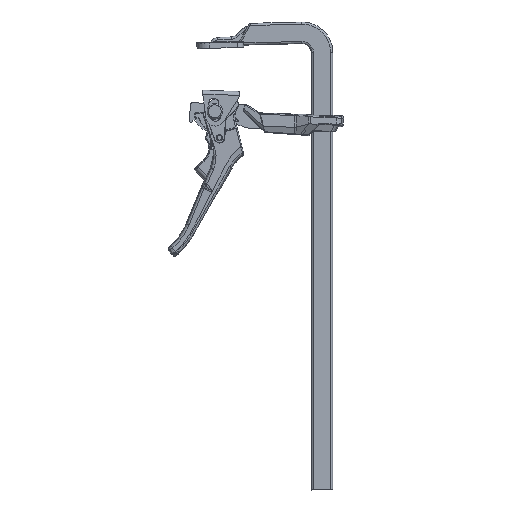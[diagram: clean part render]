
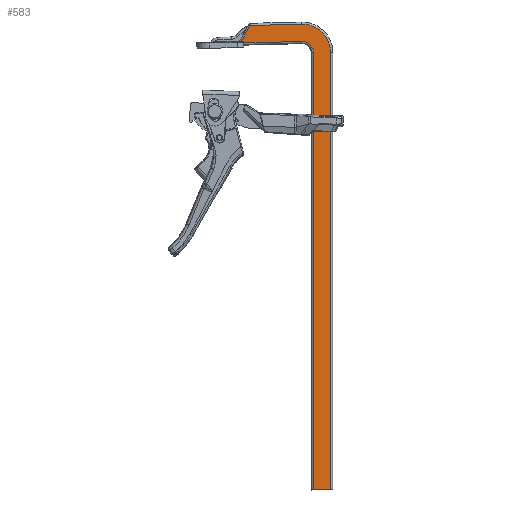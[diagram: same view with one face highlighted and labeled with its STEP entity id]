
A CAD part, front view. The second image highlights one B-rep face of the part: STEP entity #583.
In plain terms, the highlighted free-form (B-spline) face has degree [1, 1] with [2, 2] control points.
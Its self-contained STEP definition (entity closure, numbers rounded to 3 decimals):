
#95=CARTESIAN_POINT('',(25.085,-5.375,-563.));
#96=VERTEX_POINT('',#95);
#103=CARTESIAN_POINT('',(2.815,-5.375,-563.));
#104=VERTEX_POINT('',#103);
#105=CARTESIAN_POINT('',(25.085,-5.375,-563.));
#106=CARTESIAN_POINT('',(23.179,-5.375,-563.));
#107=CARTESIAN_POINT('',(13.95,-5.375,-563.));
#108=CARTESIAN_POINT('',(4.721,-5.375,-563.));
#109=CARTESIAN_POINT('',(2.815,-5.375,-563.));
#110=B_SPLINE_CURVE_WITH_KNOTS('',1,(#105,#106,#107,#108,#109),.UNSPECIFIED.,.F.,.U.,(2,1,1,1,2),(0.,0.206,1.206,2.206,2.413),.UNSPECIFIED.);
#111=EDGE_CURVE('',#96,#104,#110,.T.);
#405=CARTESIAN_POINT('',(2.815,-5.375,0.));
#406=VERTEX_POINT('',#405);
#422=CARTESIAN_POINT('',(2.815,-5.375,0.));
#423=CARTESIAN_POINT('',(2.815,-5.375,-563.));
#424=B_SPLINE_CURVE_WITH_KNOTS('',1,(#422,#423),.POLYLINE_FORM.,.F.,.U.,(2,2),(0.,1.),.UNSPECIFIED.);
#425=EDGE_CURVE('',#406,#104,#424,.T.);
#482=CARTESIAN_POINT('',(25.085,-5.375,0.));
#483=VERTEX_POINT('',#482);
#494=CARTESIAN_POINT('',(25.085,-5.375,0.));
#495=CARTESIAN_POINT('',(25.085,-5.375,-563.));
#496=B_SPLINE_CURVE_WITH_KNOTS('',1,(#494,#495),.POLYLINE_FORM.,.F.,.U.,(2,2),(0.,1.),.UNSPECIFIED.);
#497=EDGE_CURVE('',#483,#96,#496,.T.);
#502=CARTESIAN_POINT('',(306.537,-5.375,97.65));
#503=CARTESIAN_POINT('',(306.537,-5.375,-623.168));
#504=CARTESIAN_POINT('',(-414.281,-5.375,97.65));
#505=CARTESIAN_POINT('',(-414.281,-5.375,-623.168));
#506=B_SPLINE_SURFACE_WITH_KNOTS('',1,1,((#502,#503),(#504,#505)),.PLANE_SURF.,.F.,.F.,.U.,(2,2),(2,2),(0.,1.),(0.,1.),.UNSPECIFIED.);
#507=CARTESIAN_POINT('',(-86.898,-5.375,14.141));
#508=VERTEX_POINT('',#507);
#509=CARTESIAN_POINT('',(-87.924,-5.375,15.114));
#510=VERTEX_POINT('',#509);
#511=CARTESIAN_POINT('',(-86.898,-5.375,14.141));
#512=CARTESIAN_POINT('',(-86.904,-5.375,14.391));
#513=CARTESIAN_POINT('',(-87.674,-5.375,15.121));
#514=CARTESIAN_POINT('',(-87.924,-5.375,15.114));
#515=B_SPLINE_CURVE_WITH_KNOTS('',2,(#511,#512,#513,#514),.UNSPECIFIED.,.F.,.U.,(3,1,3),(0.,0.5,1.),.UNSPECIFIED.);
#516=EDGE_CURVE('',#508,#510,#515,.T.);
#517=ORIENTED_EDGE('',*,*,#516,.F.);
#518=CARTESIAN_POINT('',(-86.864,-5.375,12.86));
#519=VERTEX_POINT('',#518);
#520=CARTESIAN_POINT('',(-86.864,-5.375,12.86));
#521=CARTESIAN_POINT('',(-86.898,-5.375,14.141));
#522=B_SPLINE_CURVE_WITH_KNOTS('',1,(#520,#521),.POLYLINE_FORM.,.F.,.U.,(2,2),(0.,0.051),.UNSPECIFIED.);
#523=EDGE_CURVE('',#519,#508,#522,.T.);
#524=ORIENTED_EDGE('',*,*,#523,.F.);
#525=CARTESIAN_POINT('',(-12.388,-5.375,14.81));
#526=VERTEX_POINT('',#525);
#527=CARTESIAN_POINT('',(-12.388,-5.375,14.81));
#528=CARTESIAN_POINT('',(-86.864,-5.375,12.86));
#529=B_SPLINE_CURVE_WITH_KNOTS('',1,(#527,#528),.POLYLINE_FORM.,.F.,.U.,(2,2),(0.,0.621),.UNSPECIFIED.);
#530=EDGE_CURVE('',#526,#519,#529,.T.);
#531=ORIENTED_EDGE('',*,*,#530,.F.);
#532=CARTESIAN_POINT('',(-12.388,-5.375,14.81));
#533=CARTESIAN_POINT('',(-6.139,-5.375,14.974));
#534=CARTESIAN_POINT('',(-1.662,-5.375,10.612));
#535=CARTESIAN_POINT('',(2.815,-5.375,6.251));
#536=CARTESIAN_POINT('',(2.815,-5.375,0.));
#537=(BOUNDED_CURVE()B_SPLINE_CURVE(2,(#532,#533,#534,#535,#536),.CIRCULAR_ARC.,.F.,.U.)B_SPLINE_CURVE_WITH_KNOTS((3,2,3),(0.,0.5,1.),.UNSPECIFIED.)CURVE()GEOMETRIC_REPRESENTATION_ITEM()RATIONAL_B_SPLINE_CURVE((1.,0.921,1.,0.921,1.))REPRESENTATION_ITEM(''));
#538=EDGE_CURVE('',#526,#406,#537,.T.);
#539=ORIENTED_EDGE('',*,*,#538,.T.);
#540=ORIENTED_EDGE('',*,*,#425,.T.);
#541=ORIENTED_EDGE('',*,*,#111,.F.);
#542=ORIENTED_EDGE('',*,*,#497,.F.);
#543=CARTESIAN_POINT('',(-12.971,-5.375,37.072));
#544=VERTEX_POINT('',#543);
#545=CARTESIAN_POINT('',(-12.971,-5.375,37.072));
#546=CARTESIAN_POINT('',(2.67,-5.375,37.482));
#547=CARTESIAN_POINT('',(13.877,-5.375,26.564));
#548=CARTESIAN_POINT('',(25.085,-5.375,15.646));
#549=CARTESIAN_POINT('',(25.085,-5.375,0.));
#550=(BOUNDED_CURVE()B_SPLINE_CURVE(2,(#545,#546,#547,#548,#549),.UNSPECIFIED.,.F.,.U.)B_SPLINE_CURVE_WITH_KNOTS((3,2,3),(0.,0.5,1.),.UNSPECIFIED.)CURVE()GEOMETRIC_REPRESENTATION_ITEM()RATIONAL_B_SPLINE_CURVE((1.,0.921,1.,0.921,1.))REPRESENTATION_ITEM(''));
#551=EDGE_CURVE('',#544,#483,#550,.T.);
#552=ORIENTED_EDGE('',*,*,#551,.F.);
#553=CARTESIAN_POINT('',(-79.053,-5.375,35.342));
#554=VERTEX_POINT('',#553);
#555=CARTESIAN_POINT('',(-12.971,-5.375,37.072));
#556=CARTESIAN_POINT('',(-79.053,-5.375,35.342));
#557=B_SPLINE_CURVE_WITH_KNOTS('',1,(#555,#556),.POLYLINE_FORM.,.F.,.U.,(2,2),(0.,0.551),.UNSPECIFIED.);
#558=EDGE_CURVE('',#544,#554,#557,.T.);
#559=ORIENTED_EDGE('',*,*,#558,.T.);
#560=CARTESIAN_POINT('',(-90.058,-5.375,15.059));
#561=VERTEX_POINT('',#560);
#562=CARTESIAN_POINT('',(-90.058,-5.375,15.059));
#563=CARTESIAN_POINT('',(-89.525,-5.375,16.041));
#564=CARTESIAN_POINT('',(-87.378,-5.375,19.995));
#565=CARTESIAN_POINT('',(-84.606,-5.375,25.099));
#566=CARTESIAN_POINT('',(-82.676,-5.375,28.654));
#567=CARTESIAN_POINT('',(-81.39,-5.375,31.023));
#568=CARTESIAN_POINT('',(-80.532,-5.375,32.603));
#569=CARTESIAN_POINT('',(-79.96,-5.375,33.656));
#570=CARTESIAN_POINT('',(-79.578,-5.375,34.36));
#571=CARTESIAN_POINT('',(-79.235,-5.375,34.99));
#572=CARTESIAN_POINT('',(-79.053,-5.375,35.342));
#573=B_SPLINE_CURVE_WITH_KNOTS('',2,(#562,#563,#564,#565,#566,#567,#568,#569,#570,#571,#572),.UNSPECIFIED.,.F.,.U.,(3,1,1,1,1,1,1,1,1,3),(0.27,0.341,0.555,0.708,0.811,0.879,0.924,0.955,0.975,1.),.UNSPECIFIED.);
#574=EDGE_CURVE('',#561,#554,#573,.T.);
#575=ORIENTED_EDGE('',*,*,#574,.F.);
#576=CARTESIAN_POINT('',(-87.924,-5.375,15.114));
#577=CARTESIAN_POINT('',(-90.058,-5.375,15.059));
#578=B_SPLINE_CURVE_WITH_KNOTS('',1,(#576,#577),.POLYLINE_FORM.,.F.,.U.,(2,2),(0.174,0.917),.UNSPECIFIED.);
#579=EDGE_CURVE('',#510,#561,#578,.T.);
#580=ORIENTED_EDGE('',*,*,#579,.F.);
#581=EDGE_LOOP('',(#517,#524,#531,#539,#540,#541,#542,#552,#559,#575,#580));
#582=FACE_OUTER_BOUND('',#581,.T.);
#583=ADVANCED_FACE('',(#582),#506,.T.);
